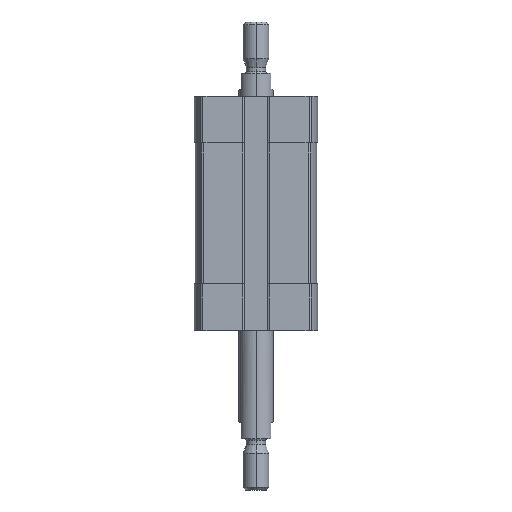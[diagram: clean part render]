
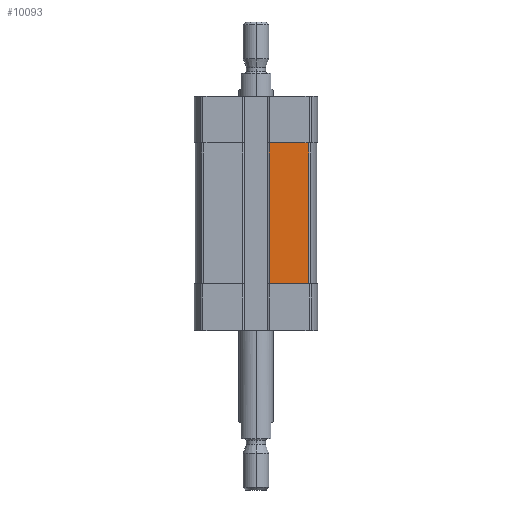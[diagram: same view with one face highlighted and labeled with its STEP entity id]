
A CAD part, left-side view. The second image highlights one B-rep face of the part: STEP entity #10093.
In plain terms, the highlighted planar face has unit normal (-1, 0, 0).
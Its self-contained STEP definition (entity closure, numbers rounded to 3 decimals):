
#111 = ORIENTED_EDGE ( 'NONE', *, *, #1343, .T. ) ;
#313 = LINE ( 'NONE', #5095, #6288 ) ;
#1206 = CARTESIAN_POINT ( 'NONE',  ( -14.25, -3.1, -11. ) ) ;
#1343 = EDGE_CURVE ( 'NONE', #10286, #6606, #10807, .T. ) ;
#1449 = DIRECTION ( 'NONE',  ( 0., -1., 0. ) ) ;
#1657 = ORIENTED_EDGE ( 'NONE', *, *, #6216, .T. ) ;
#1867 = CARTESIAN_POINT ( 'NONE',  ( -14.25, -3.1, -44. ) ) ;
#2182 = DIRECTION ( 'NONE',  ( 0., 0., 1. ) ) ;
#2459 = CARTESIAN_POINT ( 'NONE',  ( -14.25, -3.1, -44. ) ) ;
#2951 = ORIENTED_EDGE ( 'NONE', *, *, #6614, .F. ) ;
#3322 = CARTESIAN_POINT ( 'NONE',  ( -14.25, -3.1, -11. ) ) ;
#3451 = EDGE_CURVE ( 'NONE', #10286, #9453, #5595, .T. ) ;
#3496 = VECTOR ( 'NONE', #2182, 1000. ) ;
#4454 = VECTOR ( 'NONE', #1449, 1000. ) ;
#4613 = DIRECTION ( 'NONE',  ( 0., 0., 1. ) ) ;
#4693 = CARTESIAN_POINT ( 'NONE',  ( -14.25, -3.1, -44. ) ) ;
#4868 = DIRECTION ( 'NONE',  ( 0., 0., 1. ) ) ;
#5095 = CARTESIAN_POINT ( 'NONE',  ( -14.25, -12.347, -44. ) ) ;
#5595 = LINE ( 'NONE', #4693, #3496 ) ;
#6216 = EDGE_CURVE ( 'NONE', #6606, #7596, #313, .T. ) ;
#6288 = VECTOR ( 'NONE', #4868, 1000. ) ;
#6606 = VERTEX_POINT ( 'NONE', #11225 ) ;
#6614 = EDGE_CURVE ( 'NONE', #9453, #7596, #8654, .T. ) ;
#7211 = EDGE_LOOP ( 'NONE', ( #2951, #9212, #111, #1657 ) ) ;
#7596 = VERTEX_POINT ( 'NONE', #7954 ) ;
#7954 = CARTESIAN_POINT ( 'NONE',  ( -14.25, -12.347, -11. ) ) ;
#8184 = FACE_OUTER_BOUND ( 'NONE', #7211, .T. ) ;
#8480 = DIRECTION ( 'NONE',  ( 0., -1., 0. ) ) ;
#8654 = LINE ( 'NONE', #1206, #9541 ) ;
#9134 = DIRECTION ( 'NONE',  ( -1., 0., 0. ) ) ;
#9212 = ORIENTED_EDGE ( 'NONE', *, *, #3451, .F. ) ;
#9453 = VERTEX_POINT ( 'NONE', #3322 ) ;
#9541 = VECTOR ( 'NONE', #8480, 1000. ) ;
#9657 = CARTESIAN_POINT ( 'NONE',  ( -14.25, -3.1, -44. ) ) ;
#10031 = PLANE ( 'NONE',  #11132 ) ;
#10093 = ADVANCED_FACE ( 'NONE', ( #8184 ), #10031, .T. ) ;
#10286 = VERTEX_POINT ( 'NONE', #9657 ) ;
#10807 = LINE ( 'NONE', #2459, #4454 ) ;
#11132 = AXIS2_PLACEMENT_3D ( 'NONE', #1867, #9134, #4613 ) ;
#11225 = CARTESIAN_POINT ( 'NONE',  ( -14.25, -12.347, -44. ) ) ;
